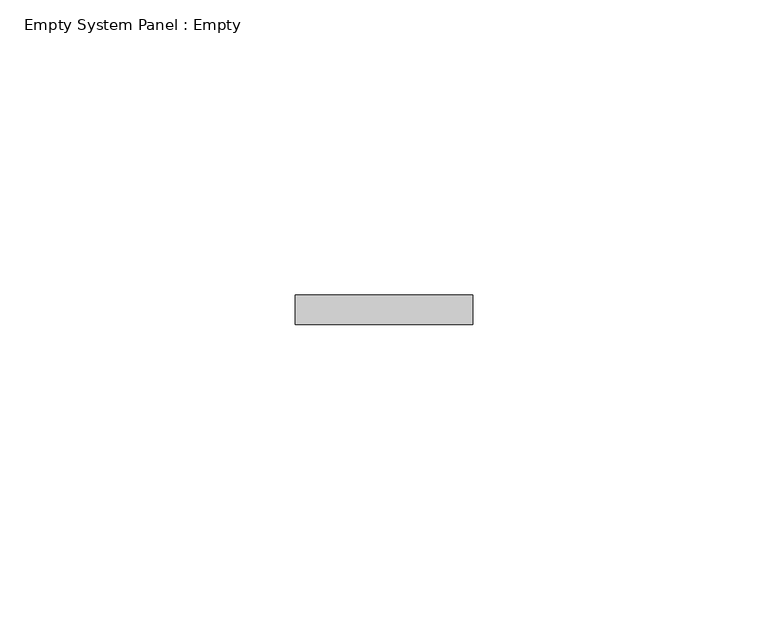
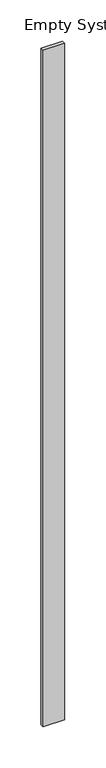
"""IFC4 building model written with IfcOpenShell, lengths in millimetres: plate geometry, Empty System Panel : Empty."""

from ifc_helpers import new_model, si_unit, origin, origin_with_axes, place, context, project, spatial, polyline, outline, extrude, source, transform, mapped, element, save


def empty_system_panel_empty_8cb86d33(model_context):
    return source(origin(), model_context, "Body", "SweptSolid", [
        extrude(outline(polyline([(15.0000002, 97.5), (-15.0000002, 97.5), (-15.0000002, 102.5), (15.0000002, 102.5), (15.0000002, 97.5)])), origin_with_axes(), (0.0, 0.0, 1.0), 1000.0),
    ])


if __name__ == "__main__":
    model = new_model("IFC4")
    model_context = context("Model", 3, world=origin())
    ifc_project = project(units=[si_unit("LENGTHUNIT", "METRE", prefix="MILLI")], contexts=[model_context])
    site = spatial("IfcSite", under=ifc_project)
    building = spatial("IfcBuilding", under=site)
    placement = place(None, origin())
    empty_system_panel_empty_shape = empty_system_panel_empty_8cb86d33(model_context)
    element("IfcPlate", 1, ObjectType="Empty System Panel : Empty", at=placement, inside=building, context=model_context, shape_type="MappedRepresentation", body=[
        mapped(empty_system_panel_empty_shape, transform((0.0, 0.0, 0.0), x_axis=(1.0, 0.0, 0.0), y_axis=(0.0, 1.0, 0.0), z_axis=(0.0, 0.0, 1.0))),
    ])
    save(model, "model.ifc")
